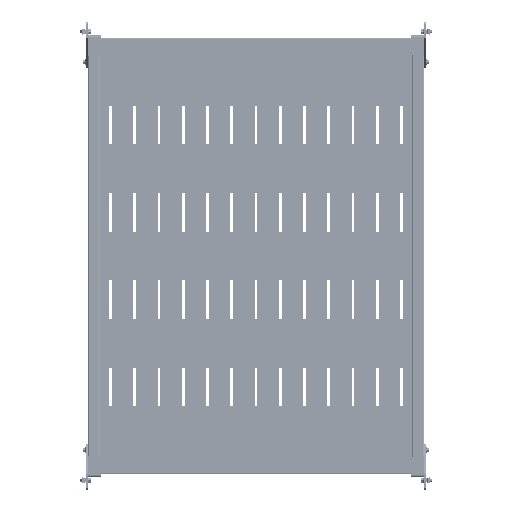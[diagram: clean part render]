
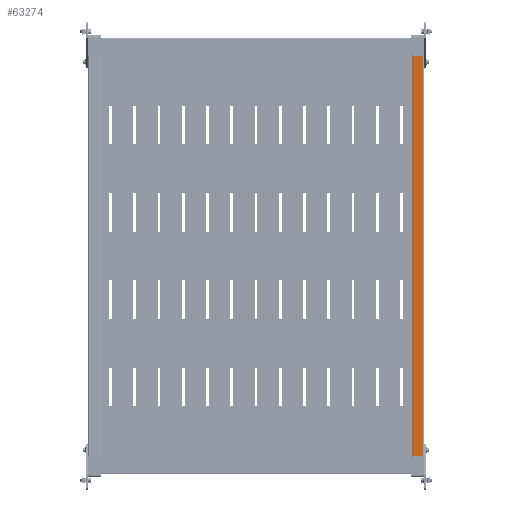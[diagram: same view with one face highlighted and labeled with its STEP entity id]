
A CAD part, front view. The second image highlights one B-rep face of the part: STEP entity #63274.
In plain terms, the highlighted planar face has unit normal (0, -1, 0).
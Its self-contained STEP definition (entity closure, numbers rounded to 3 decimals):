
#2237 = CARTESIAN_POINT ( 'NONE',  ( 448.4, -45., -324.1 ) ) ;
#5735 = DIRECTION ( 'NONE',  ( 0., 0., -1. ) ) ;
#9107 = EDGE_CURVE ( 'NONE', #102866, #73217, #74826, .T. ) ;
#13145 = CARTESIAN_POINT ( 'NONE',  ( -448.4, -45., 0. ) ) ;
#16563 = VECTOR ( 'NONE', #50542, 1000. ) ;
#19484 = DIRECTION ( 'NONE',  ( 0., 1., 0. ) ) ;
#21484 = ORIENTED_EDGE ( 'NONE', *, *, #67021, .T. ) ;
#28865 = VECTOR ( 'NONE', #88630, 1000. ) ;
#32105 = ORIENTED_EDGE ( 'NONE', *, *, #9107, .T. ) ;
#33724 = LINE ( 'NONE', #81765, #28865 ) ;
#33822 = CARTESIAN_POINT ( 'NONE',  ( -448.4, -45., -324.1 ) ) ;
#34322 = VERTEX_POINT ( 'NONE', #33822 ) ;
#35014 = DIRECTION ( 'NONE',  ( -1., 0., 0. ) ) ;
#36072 = LINE ( 'NONE', #2237, #47316 ) ;
#44711 = CARTESIAN_POINT ( 'NONE',  ( 448.4, -45., 0. ) ) ;
#44893 = LINE ( 'NONE', #13145, #59057 ) ;
#47316 = VECTOR ( 'NONE', #35014, 1000. ) ;
#50542 = DIRECTION ( 'NONE',  ( 0., 0., 1. ) ) ;
#54941 = PLANE ( 'NONE',  #95738 ) ;
#57347 = EDGE_LOOP ( 'NONE', ( #21484, #66791, #63378, #32105 ) ) ;
#59057 = VECTOR ( 'NONE', #5735, 1000. ) ;
#63274 = ADVANCED_FACE ( 'NONE', ( #95061 ), #54941, .F. ) ;
#63378 = ORIENTED_EDGE ( 'NONE', *, *, #66165, .F. ) ;
#65236 = EDGE_CURVE ( 'NONE', #34322, #79379, #44893, .T. ) ;
#65476 = DIRECTION ( 'NONE',  ( 0., 0., 1. ) ) ;
#66165 = EDGE_CURVE ( 'NONE', #102866, #79379, #33724, .T. ) ;
#66791 = ORIENTED_EDGE ( 'NONE', *, *, #65236, .T. ) ;
#67021 = EDGE_CURVE ( 'NONE', #73217, #34322, #36072, .T. ) ;
#72702 = CARTESIAN_POINT ( 'NONE',  ( -448.4, -45., -343.9 ) ) ;
#73217 = VERTEX_POINT ( 'NONE', #95935 ) ;
#74826 = LINE ( 'NONE', #44711, #16563 ) ;
#79275 = CARTESIAN_POINT ( 'NONE',  ( 448.4, -45., -343.9 ) ) ;
#79379 = VERTEX_POINT ( 'NONE', #72702 ) ;
#81765 = CARTESIAN_POINT ( 'NONE',  ( -448.4, -45., -343.9 ) ) ;
#88630 = DIRECTION ( 'NONE',  ( -1., 0., 0. ) ) ;
#95061 = FACE_OUTER_BOUND ( 'NONE', #57347, .T. ) ;
#95738 = AXIS2_PLACEMENT_3D ( 'NONE', #103519, #19484, #65476 ) ;
#95935 = CARTESIAN_POINT ( 'NONE',  ( 448.4, -45., -324.1 ) ) ;
#102866 = VERTEX_POINT ( 'NONE', #79275 ) ;
#103519 = CARTESIAN_POINT ( 'NONE',  ( 0., -45., 0. ) ) ;
